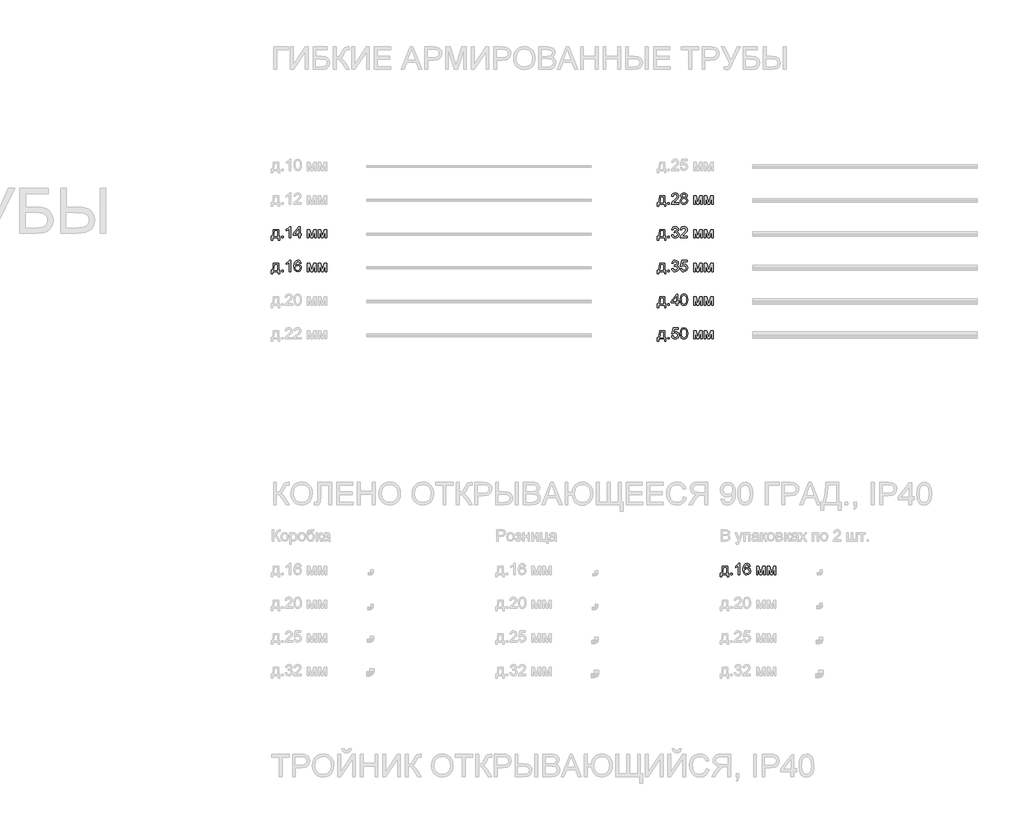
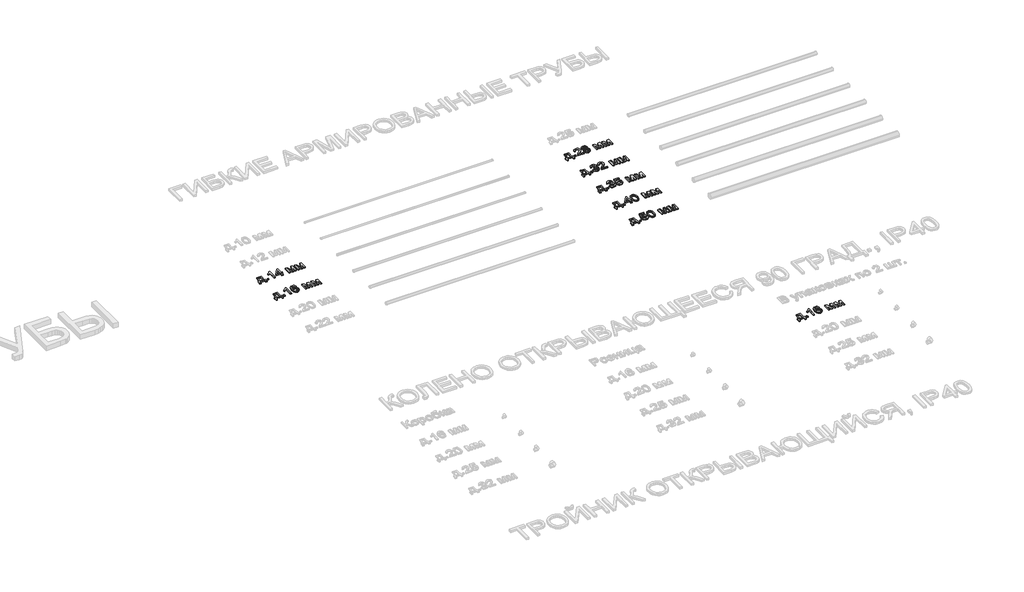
# One storey, part 82 of 98: 8 proxies.
"""IFC4 building model written with IfcOpenShell, lengths in millimetres."""

from ifc_helpers import new_model, si_unit, origin, origin_with_axes, place, context, project, spatial, polyline, outline, extrude, element, save

model = new_model("IFC4")

# Units and contexts
model_context = context("Model", 3, world=origin())
ifc_project = project(units=[si_unit("LENGTHUNIT", "METRE", prefix="MILLI")], contexts=[model_context])

# Site, building, storey
site = spatial("IfcSite", under=ifc_project)
building = spatial("IfcBuilding", under=site)
storey = spatial("IfcBuildingStorey", under=building, Name="Этаж 01", Elevation=0.0)

# Proxies
placement = place(None, origin())
element("IfcBuildingElementProxy", 1, Name="100", ObjectType="100", at=placement, inside=storey, context=model_context, shape_type="SweptSolid", body=[
    extrude(outline(polyline([(-26.9858135, -12385.678477), (20.1030819, -12385.678477), (20.1030819, -12446.894041), (29.520861, -12446.894041), (29.520861, -12479.8562677), (16.9638222, -12479.8562677), (16.9638222, -12459.4510797), (-34.8339627, -12459.4510797), (-34.8339627, -12479.8562677), (-47.3910015, -12479.8562677), (-47.3910015, -12446.894041), (-39.5428522, -12446.894041), (-29.8430303, -12422.9449231), (-26.9858135, -12385.678477)]), holes=[polyline([(-15.9984045, -12398.2355157), (-18.9414605, -12426.8444722), (-25.4161836, -12446.894041), (7.5460431, -12446.894041), (7.5460431, -12398.2355157), (-15.9984045, -12398.2355157)])]), origin_with_axes(), (0.0, 0.0, 1.0), 10.0),
    extrude(outline(polyline([(46.7867893, -12459.4510797), (46.7867893, -12446.894041), (59.3438281, -12446.894041), (59.3438281, -12459.4510797), (46.7867893, -12459.4510797)])), origin_with_axes(), (0.0, 0.0, 1.0), 10.0),
    extrude(outline(polyline([(126.8379114, -12459.4510797), (114.2808727, -12459.4510797), (114.2808727, -12381.1657912), (102.3860215, -12389.6393398), (89.1667951, -12395.9791728), (89.1667951, -12384.1088471), (107.5731576, -12372.3611487), (118.7445076, -12358.9947696), (126.8379114, -12358.9947696), (126.8379114, -12459.4510797)])), origin_with_axes(), (0.0, 0.0, 1.0), 10.0),
    extrude(outline(polyline([(197.4712545, -12459.4510797), (197.4712545, -12435.906632), (151.951989, -12435.906632), (151.951989, -12423.3495933), (200.6105142, -12360.5643994), (210.0282933, -12360.5643994), (210.0282933, -12423.3495933), (222.5853321, -12423.3495933), (222.5853321, -12435.906632), (210.0282933, -12435.906632), (210.0282933, -12459.4510797), (197.4712545, -12459.4510797)]), holes=[polyline([(197.4712545, -12423.3495933), (197.4712545, -12384.5503055), (167.4030328, -12423.3495933), (197.4712545, -12423.3495933)])]), origin_with_axes(), (0.0, 0.0, 1.0), 10.0),
    extrude(outline(polyline([(275.9527468, -12385.678477), (297.5596827, -12385.678477), (314.2124743, -12444.7357999), (332.1651157, -12385.678477), (352.8646093, -12385.678477), (352.8646093, -12459.4510797), (340.3075705, -12459.4510797), (340.3075705, -12400.0504002), (322.2568273, -12459.4510797), (305.7757139, -12459.4510797), (288.5097856, -12397.2054461), (288.5097856, -12459.4510797), (275.9527468, -12459.4510797), (275.9527468, -12385.678477)])), origin_with_axes(), (0.0, 0.0, 1.0), 10.0),
    extrude(outline(polyline([(371.7001674, -12385.678477), (393.3071033, -12385.678477), (409.9598949, -12444.7357999), (427.9125363, -12385.678477), (448.6120299, -12385.678477), (448.6120299, -12459.4510797), (436.0549911, -12459.4510797), (436.0549911, -12400.0504002), (418.0042479, -12459.4510797), (401.5231345, -12459.4510797), (384.2572062, -12397.2054461), (384.2572062, -12459.4510797), (371.7001674, -12459.4510797), (371.7001674, -12385.678477)])), origin_with_axes(), (0.0, 0.0, 1.0), 10.0),
])
element("IfcBuildingElementProxy", 2, Name="100", ObjectType="100", at=placement, inside=storey, context=model_context, shape_type="SweptSolid", body=[
    extrude(outline(polyline([(-26.9858135, -12685.678477), (20.1030819, -12685.678477), (20.1030819, -12746.894041), (29.520861, -12746.894041), (29.520861, -12779.8562677), (16.9638222, -12779.8562677), (16.9638222, -12759.4510797), (-34.8339627, -12759.4510797), (-34.8339627, -12779.8562677), (-47.3910015, -12779.8562677), (-47.3910015, -12746.894041), (-39.5428522, -12746.894041), (-29.8430303, -12722.9449231), (-26.9858135, -12685.678477)]), holes=[polyline([(-15.9984045, -12698.2355157), (-18.9414605, -12726.8444722), (-25.4161836, -12746.894041), (7.5460431, -12746.894041), (7.5460431, -12698.2355157), (-15.9984045, -12698.2355157)])]), origin_with_axes(), (0.0, 0.0, 1.0), 10.0),
    extrude(outline(polyline([(46.7867893, -12759.4510797), (46.7867893, -12746.894041), (59.3438281, -12746.894041), (59.3438281, -12759.4510797), (46.7867893, -12759.4510797)])), origin_with_axes(), (0.0, 0.0, 1.0), 10.0),
    extrude(outline(polyline([(126.8379114, -12759.4510797), (114.2808727, -12759.4510797), (114.2808727, -12681.1657912), (102.3860215, -12689.6393398), (89.1667951, -12695.9791728), (89.1667951, -12684.1088471), (107.5731576, -12672.3611487), (118.7445076, -12658.9947696), (126.8379114, -12658.9947696), (126.8379114, -12759.4510797)])), origin_with_axes(), (0.0, 0.0, 1.0), 10.0),
    extrude(outline(polyline([(221.0157022, -12685.678477), (208.4586634, -12687.2481068), (203.700723, -12676.7757327), (191.1191587, -12671.5518083), (179.7883933, -12674.5929662), (171.2167428, -12686.0095708), (167.6482874, -12708.3890588), (178.7215355, -12698.3704058), (192.4435339, -12695.096256), (204.0440795, -12697.3342048), (213.7806896, -12704.0480513), (220.3841715, -12714.3058275), (222.5853321, -12727.175566), (218.4405282, -12744.502808), (207.0361864, -12756.7655412), (190.5795985, -12761.0207096), (176.3333682, -12758.2002809), (164.9872743, -12749.7389951), (157.5652551, -12734.802986), (155.0912487, -12712.5583881), (157.8381009, -12687.5485438), (166.0786576, -12670.4481624), (177.3297153, -12661.8581178), (191.9039737, -12658.9947696), (202.9220394, -12660.7667345), (211.7450759, -12666.0826293), (217.9254935, -12674.5255211), (221.0157022, -12685.678477)]), holes=[polyline([(167.6482874, -12726.9793623), (170.5545552, -12737.8564066), (178.2800771, -12745.7536068), (189.5985798, -12748.4636708), (197.8851218, -12747.0595879), (204.3996988, -12742.847339), (208.6211447, -12736.2254631), (210.0282933, -12727.5924989), (208.6395388, -12719.305957), (204.4732752, -12712.9875837), (197.8483336, -12708.986867), (189.083545, -12707.6532948), (173.8900186, -12712.9875837), (169.2087202, -12719.1526728), (167.6482874, -12726.9793623)])]), origin_with_axes(), (0.0, 0.0, 1.0), 10.0),
    extrude(outline(polyline([(275.9527468, -12685.678477), (297.5596827, -12685.678477), (314.2124743, -12744.7357999), (332.1651157, -12685.678477), (352.8646093, -12685.678477), (352.8646093, -12759.4510797), (340.3075705, -12759.4510797), (340.3075705, -12700.0504002), (322.2568273, -12759.4510797), (305.7757139, -12759.4510797), (288.5097856, -12697.2054461), (288.5097856, -12759.4510797), (275.9527468, -12759.4510797), (275.9527468, -12685.678477)])), origin_with_axes(), (0.0, 0.0, 1.0), 10.0),
    extrude(outline(polyline([(371.7001674, -12685.678477), (393.3071033, -12685.678477), (409.9598949, -12744.7357999), (427.9125363, -12685.678477), (448.6120299, -12685.678477), (448.6120299, -12759.4510797), (436.0549911, -12759.4510797), (436.0549911, -12700.0504002), (418.0042479, -12759.4510797), (401.5231345, -12759.4510797), (384.2572062, -12697.2054461), (384.2572062, -12759.4510797), (371.7001674, -12759.4510797), (371.7001674, -12685.678477)])), origin_with_axes(), (0.0, 0.0, 1.0), 10.0),
])
element("IfcBuildingElementProxy", 3, Name="100", ObjectType="100", at=placement, inside=storey, context=model_context, shape_type="SweptSolid", body=[
    extrude(outline(polyline([(3413.0141865, -12085.678477), (3460.1030819, -12085.678477), (3460.1030819, -12146.894041), (3469.520861, -12146.894041), (3469.520861, -12179.8562677), (3456.9638222, -12179.8562677), (3456.9638222, -12159.4510797), (3405.1660373, -12159.4510797), (3405.1660373, -12179.8562677), (3392.6089985, -12179.8562677), (3392.6089985, -12146.894041), (3400.4571478, -12146.894041), (3410.1569697, -12122.9449231), (3413.0141865, -12085.678477)]), holes=[polyline([(3424.0015955, -12098.2355157), (3421.0585395, -12126.8444722), (3414.5838164, -12146.894041), (3447.5460431, -12146.894041), (3447.5460431, -12098.2355157), (3424.0015955, -12098.2355157)])]), origin_with_axes(), (0.0, 0.0, 1.0), 10.0),
    extrude(outline(polyline([(3486.7867893, -12159.4510797), (3486.7867893, -12146.894041), (3499.3438281, -12146.894041), (3499.3438281, -12159.4510797), (3486.7867893, -12159.4510797)])), origin_with_axes(), (0.0, 0.0, 1.0), 10.0),
    extrude(outline(polyline([(3584.1038398, -12146.894041), (3584.1038398, -12159.4510797), (3518.1793862, -12159.4510797), (3519.5282869, -12150.7935901), (3527.1557069, -12137.4639991), (3542.8765308, -12122.9081349), (3564.5570431, -12101.9879121), (3569.9771711, -12087.7631416), (3564.8636114, -12076.2484351), (3551.509495, -12071.5518083), (3537.5912928, -12076.1380705), (3532.3060548, -12088.8177367), (3519.7490161, -12087.2481068), (3522.7932396, -12075.1018696), (3529.3752616, -12066.2297821), (3539.1517256, -12060.8035227), (3551.7792751, -12058.9947696), (3564.4987951, -12061.0058578), (3574.256865, -12067.0391225), (3580.4648737, -12076.0522314), (3582.5342099, -12087.0028521), (3580.3023925, -12098.9099661), (3572.8834389, -12111.2217502), (3554.8940093, -12128.4263648), (3540.4485097, -12140.505157), (3534.7831269, -12146.894041), (3584.1038398, -12146.894041)])), origin_with_axes(), (0.0, 0.0, 1.0), 10.0),
    extrude(outline(polyline([(3614.9568764, -12104.1216276), (3603.5157464, -12096.3225294), (3599.8001382, -12084.1824235), (3601.8234892, -12074.3661056), (3607.8935421, -12066.2543076), (3617.3297153, -12060.8096541), (3629.451427, -12058.9947696), (3641.6467152, -12060.8525737), (3651.2055157, -12066.4259859), (3657.3859332, -12074.6665426), (3659.4460724, -12084.52578), (3655.7795151, -12096.3593176), (3644.6572162, -12104.1216276), (3658.0113326, -12113.9686024), (3662.5853321, -12130.2167238), (3660.3167264, -12142.2219396), (3653.5109095, -12152.1424908), (3643.0017472, -12158.8011549), (3629.6231053, -12161.0207096), (3616.2444634, -12158.7919578), (3605.7353011, -12152.1057026), (3598.9294842, -12142.0901152), (3596.6608785, -12129.8733673), (3601.418819, -12113.2451011), (3614.9568764, -12104.1216276)]), holes=[polyline([(3609.2179173, -12129.4319089), (3611.3148447, -12138.8864762), (3618.7337982, -12145.9620732), (3629.7212072, -12148.4636708), (3638.2683322, -12147.1484927), (3644.6817416, -12143.2029583), (3650.0282933, -12129.8243164), (3644.5100634, -12116.1881571), (3637.9495011, -12112.1414551), (3629.3042742, -12110.7925545), (3620.8767109, -12112.123061), (3614.5276808, -12116.1145807), (3609.2179173, -12129.4319089)]), polyline([(3612.357177, -12084.5503055), (3616.8085491, -12094.409543), (3629.7702581, -12098.2355157), (3642.4744497, -12094.4340684), (3646.8890336, -12085.1143912), (3642.3272969, -12075.4636202), (3629.6231053, -12071.5518083), (3616.8821255, -12075.3777811), (3612.357177, -12084.5503055)])]), origin_with_axes(), (0.0, 0.0, 1.0), 10.0),
    extrude(outline(polyline([(3715.9527468, -12085.678477), (3737.5596827, -12085.678477), (3754.2124743, -12144.7357999), (3772.1651157, -12085.678477), (3792.8646093, -12085.678477), (3792.8646093, -12159.4510797), (3780.3075705, -12159.4510797), (3780.3075705, -12100.0504002), (3762.2568273, -12159.4510797), (3745.7757139, -12159.4510797), (3728.5097856, -12097.2054461), (3728.5097856, -12159.4510797), (3715.9527468, -12159.4510797), (3715.9527468, -12085.678477)])), origin_with_axes(), (0.0, 0.0, 1.0), 10.0),
    extrude(outline(polyline([(3811.7001674, -12085.678477), (3833.3071033, -12085.678477), (3849.9598949, -12144.7357999), (3867.9125363, -12085.678477), (3888.6120299, -12085.678477), (3888.6120299, -12159.4510797), (3876.0549911, -12159.4510797), (3876.0549911, -12100.0504002), (3858.0042479, -12159.4510797), (3841.5231345, -12159.4510797), (3824.2572062, -12097.2054461), (3824.2572062, -12159.4510797), (3811.7001674, -12159.4510797), (3811.7001674, -12085.678477)])), origin_with_axes(), (0.0, 0.0, 1.0), 10.0),
])
element("IfcBuildingElementProxy", 4, Name="100", ObjectType="100", at=placement, inside=storey, context=model_context, shape_type="SweptSolid", body=[
    extrude(outline(polyline([(3413.0141865, -12385.678477), (3460.1030819, -12385.678477), (3460.1030819, -12446.894041), (3469.520861, -12446.894041), (3469.520861, -12479.8562677), (3456.9638222, -12479.8562677), (3456.9638222, -12459.4510797), (3405.1660373, -12459.4510797), (3405.1660373, -12479.8562677), (3392.6089985, -12479.8562677), (3392.6089985, -12446.894041), (3400.4571478, -12446.894041), (3410.1569697, -12422.9449231), (3413.0141865, -12385.678477)]), holes=[polyline([(3424.0015955, -12398.2355157), (3421.0585395, -12426.8444722), (3414.5838164, -12446.894041), (3447.5460431, -12446.894041), (3447.5460431, -12398.2355157), (3424.0015955, -12398.2355157)])]), origin_with_axes(), (0.0, 0.0, 1.0), 10.0),
    extrude(outline(polyline([(3486.7867893, -12459.4510797), (3486.7867893, -12446.894041), (3499.3438281, -12446.894041), (3499.3438281, -12459.4510797), (3486.7867893, -12459.4510797)])), origin_with_axes(), (0.0, 0.0, 1.0), 10.0),
    extrude(outline(polyline([(3519.7490161, -12432.7673723), (3532.3060548, -12431.1977425), (3539.2344991, -12444.4169689), (3552.196208, -12448.4636708), (3560.8046467, -12447.0718506), (3567.4510481, -12442.8963899), (3573.1164308, -12429.1130779), (3567.500099, -12416.1268434), (3553.2262776, -12410.9887582), (3544.4216352, -12412.3621843), (3545.8195868, -12399.8051456), (3547.830675, -12399.9522984), (3562.079971, -12396.3470548), (3566.8256487, -12391.7730553), (3568.4075413, -12385.261544), (3563.8212791, -12375.4390948), (3552.0000043, -12371.5518083), (3540.0315767, -12375.475883), (3533.8756847, -12387.2481068), (3521.3186459, -12385.678477), (3525.01586, -12374.4028938), (3531.5948163, -12365.9845275), (3540.5956625, -12360.7422091), (3551.5585459, -12358.9947696), (3566.7030214, -12362.4405976), (3577.2980228, -12371.8583767), (3580.9645801, -12384.52578), (3577.4819638, -12396.1018002), (3567.181268, -12404.4159332), (3580.8664782, -12412.9998465), (3585.6734696, -12429.3338071), (3583.2699739, -12441.5720148), (3576.0594868, -12451.7991342), (3565.1763111, -12458.7153157), (3551.7547496, -12461.0207096), (3539.6146438, -12459.0525409), (3529.7308809, -12453.1480349), (3522.8576189, -12444.1165319), (3519.7490161, -12432.7673723)])), origin_with_axes(), (0.0, 0.0, 1.0), 10.0),
    extrude(outline(polyline([(3661.0157022, -12446.894041), (3661.0157022, -12459.4510797), (3595.0912487, -12459.4510797), (3596.4401493, -12450.7935901), (3604.0675694, -12437.4639991), (3619.7883933, -12422.9081349), (3641.4689055, -12401.9879121), (3646.8890336, -12387.7631416), (3641.7754739, -12376.2484351), (3628.4213574, -12371.5518083), (3614.5031553, -12376.1380705), (3609.2179173, -12388.8177367), (3596.6608785, -12387.2481068), (3599.705102, -12375.1018696), (3606.2871241, -12366.2297821), (3616.0635881, -12360.8035227), (3628.6911376, -12358.9947696), (3641.4106576, -12361.0058578), (3651.1687275, -12367.0391225), (3657.3767361, -12376.0522314), (3659.4460724, -12387.0028521), (3657.2142549, -12398.9099661), (3649.7953014, -12411.2217502), (3631.8058718, -12428.4263648), (3617.3603721, -12440.505157), (3611.6949894, -12446.894041), (3661.0157022, -12446.894041)])), origin_with_axes(), (0.0, 0.0, 1.0), 10.0),
    extrude(outline(polyline([(3715.9527468, -12385.678477), (3737.5596827, -12385.678477), (3754.2124743, -12444.7357999), (3772.1651157, -12385.678477), (3792.8646093, -12385.678477), (3792.8646093, -12459.4510797), (3780.3075705, -12459.4510797), (3780.3075705, -12400.0504002), (3762.2568273, -12459.4510797), (3745.7757139, -12459.4510797), (3728.5097856, -12397.2054461), (3728.5097856, -12459.4510797), (3715.9527468, -12459.4510797), (3715.9527468, -12385.678477)])), origin_with_axes(), (0.0, 0.0, 1.0), 10.0),
    extrude(outline(polyline([(3811.7001674, -12385.678477), (3833.3071033, -12385.678477), (3849.9598949, -12444.7357999), (3867.9125363, -12385.678477), (3888.6120299, -12385.678477), (3888.6120299, -12459.4510797), (3876.0549911, -12459.4510797), (3876.0549911, -12400.0504002), (3858.0042479, -12459.4510797), (3841.5231345, -12459.4510797), (3824.2572062, -12397.2054461), (3824.2572062, -12459.4510797), (3811.7001674, -12459.4510797), (3811.7001674, -12385.678477)])), origin_with_axes(), (0.0, 0.0, 1.0), 10.0),
])
element("IfcBuildingElementProxy", 5, Name="100", ObjectType="100", at=placement, inside=storey, context=model_context, shape_type="SweptSolid", body=[
    extrude(outline(polyline([(3413.0141865, -12685.678477), (3460.1030819, -12685.678477), (3460.1030819, -12746.894041), (3469.520861, -12746.894041), (3469.520861, -12779.8562677), (3456.9638222, -12779.8562677), (3456.9638222, -12759.4510797), (3405.1660373, -12759.4510797), (3405.1660373, -12779.8562677), (3392.6089985, -12779.8562677), (3392.6089985, -12746.894041), (3400.4571478, -12746.894041), (3410.1569697, -12722.9449231), (3413.0141865, -12685.678477)]), holes=[polyline([(3424.0015955, -12698.2355157), (3421.0585395, -12726.8444722), (3414.5838164, -12746.894041), (3447.5460431, -12746.894041), (3447.5460431, -12698.2355157), (3424.0015955, -12698.2355157)])]), origin_with_axes(), (0.0, 0.0, 1.0), 10.0),
    extrude(outline(polyline([(3486.7867893, -12759.4510797), (3486.7867893, -12746.894041), (3499.3438281, -12746.894041), (3499.3438281, -12759.4510797), (3486.7867893, -12759.4510797)])), origin_with_axes(), (0.0, 0.0, 1.0), 10.0),
    extrude(outline(polyline([(3519.7490161, -12732.7673723), (3532.3060548, -12731.1977425), (3539.2344991, -12744.4169689), (3552.196208, -12748.4636708), (3560.8046467, -12747.0718506), (3567.4510481, -12742.8963899), (3573.1164308, -12729.1130779), (3567.500099, -12716.1268434), (3553.2262776, -12710.9887582), (3544.4216352, -12712.3621843), (3545.8195868, -12699.8051456), (3547.830675, -12699.9522984), (3562.079971, -12696.3470548), (3566.8256487, -12691.7730553), (3568.4075413, -12685.261544), (3563.8212791, -12675.4390948), (3552.0000043, -12671.5518083), (3540.0315767, -12675.475883), (3533.8756847, -12687.2481068), (3521.3186459, -12685.678477), (3525.01586, -12674.4028938), (3531.5948163, -12665.9845275), (3540.5956625, -12660.7422091), (3551.5585459, -12658.9947696), (3566.7030214, -12662.4405976), (3577.2980228, -12671.8583767), (3580.9645801, -12684.52578), (3577.4819638, -12696.1018002), (3567.181268, -12704.4159332), (3580.8664782, -12712.9998465), (3585.6734696, -12729.3338071), (3583.2699739, -12741.5720148), (3576.0594868, -12751.7991342), (3565.1763111, -12758.7153157), (3551.7547496, -12761.0207096), (3539.6146438, -12759.0525409), (3529.7308809, -12753.1480349), (3522.8576189, -12744.1165319), (3519.7490161, -12732.7673723)])), origin_with_axes(), (0.0, 0.0, 1.0), 10.0),
    extrude(outline(polyline([(3596.6608785, -12732.7673723), (3609.2179173, -12731.1977425), (3615.5454876, -12744.134926), (3628.6666121, -12748.4636708), (3637.6674583, -12746.9584203), (3644.4119615, -12742.4426688), (3648.6242103, -12735.4375825), (3650.0282933, -12726.4643275), (3644.7675808, -12711.552844), (3638.1610333, -12707.4509597), (3628.8628158, -12706.083665), (3617.8386187, -12708.2664315), (3610.7875471, -12713.9318142), (3598.2305084, -12712.3621843), (3609.2179173, -12660.5643994), (3657.8764425, -12660.5643994), (3657.8764425, -12673.1214382), (3619.3714604, -12673.1214382), (3614.0003832, -12700.7861642), (3622.9705725, -12695.3415107), (3632.3699575, -12693.5266262), (3644.1023275, -12695.7768377), (3653.8420033, -12702.5274723), (3660.3994999, -12712.8159055), (3662.5853321, -12725.6795126), (3660.6171634, -12738.2365513), (3654.7126574, -12748.9787056), (3643.4064174, -12758.0102086), (3628.6175612, -12761.0207096), (3616.2843173, -12759.0862634), (3606.4588023, -12753.2829249), (3599.7234961, -12744.2851445), (3596.6608785, -12732.7673723)])), origin_with_axes(), (0.0, 0.0, 1.0), 10.0),
    extrude(outline(polyline([(3715.9527468, -12685.678477), (3737.5596827, -12685.678477), (3754.2124743, -12744.7357999), (3772.1651157, -12685.678477), (3792.8646093, -12685.678477), (3792.8646093, -12759.4510797), (3780.3075705, -12759.4510797), (3780.3075705, -12700.0504002), (3762.2568273, -12759.4510797), (3745.7757139, -12759.4510797), (3728.5097856, -12697.2054461), (3728.5097856, -12759.4510797), (3715.9527468, -12759.4510797), (3715.9527468, -12685.678477)])), origin_with_axes(), (0.0, 0.0, 1.0), 10.0),
    extrude(outline(polyline([(3811.7001674, -12685.678477), (3833.3071033, -12685.678477), (3849.9598949, -12744.7357999), (3867.9125363, -12685.678477), (3888.6120299, -12685.678477), (3888.6120299, -12759.4510797), (3876.0549911, -12759.4510797), (3876.0549911, -12700.0504002), (3858.0042479, -12759.4510797), (3841.5231345, -12759.4510797), (3824.2572062, -12697.2054461), (3824.2572062, -12759.4510797), (3811.7001674, -12759.4510797), (3811.7001674, -12685.678477)])), origin_with_axes(), (0.0, 0.0, 1.0), 10.0),
])
element("IfcBuildingElementProxy", 6, Name="100", ObjectType="100", at=placement, inside=storey, context=model_context, shape_type="SweptSolid", body=[
    extrude(outline(polyline([(3413.0141865, -12985.678477), (3460.1030819, -12985.678477), (3460.1030819, -13046.894041), (3469.520861, -13046.894041), (3469.520861, -13079.8562677), (3456.9638222, -13079.8562677), (3456.9638222, -13059.4510797), (3405.1660373, -13059.4510797), (3405.1660373, -13079.8562677), (3392.6089985, -13079.8562677), (3392.6089985, -13046.894041), (3400.4571478, -13046.894041), (3410.1569697, -13022.9449231), (3413.0141865, -12985.678477)]), holes=[polyline([(3424.0015955, -12998.2355157), (3421.0585395, -13026.8444722), (3414.5838164, -13046.894041), (3447.5460431, -13046.894041), (3447.5460431, -12998.2355157), (3424.0015955, -12998.2355157)])]), origin_with_axes(), (0.0, 0.0, 1.0), 10.0),
    extrude(outline(polyline([(3486.7867893, -13059.4510797), (3486.7867893, -13046.894041), (3499.3438281, -13046.894041), (3499.3438281, -13059.4510797), (3486.7867893, -13059.4510797)])), origin_with_axes(), (0.0, 0.0, 1.0), 10.0),
    extrude(outline(polyline([(3560.5593921, -13059.4510797), (3560.5593921, -13035.906632), (3515.0401265, -13035.906632), (3515.0401265, -13023.3495933), (3563.6986518, -12960.5643994), (3573.1164308, -12960.5643994), (3573.1164308, -13023.3495933), (3585.6734696, -13023.3495933), (3585.6734696, -13035.906632), (3573.1164308, -13035.906632), (3573.1164308, -13059.4510797), (3560.5593921, -13059.4510797)]), holes=[polyline([(3560.5593921, -13023.3495933), (3560.5593921, -12984.5503055), (3530.4911703, -13023.3495933), (3560.5593921, -13023.3495933)])]), origin_with_axes(), (0.0, 0.0, 1.0), 10.0),
    extrude(outline(polyline([(3596.6608785, -13010.032265), (3600.3519612, -12981.129003), (3611.3148447, -12964.4639486), (3629.6231053, -12958.9947696), (3644.2893342, -12962.2321311), (3654.4183518, -12971.5640711), (3660.3044637, -12986.4265037), (3662.5853321, -13010.032265), (3658.9310376, -13038.8128998), (3648.0049423, -13055.5147424), (3639.7735827, -13059.6442178), (3629.6231053, -13061.0207096), (3616.5755572, -13058.6294766), (3606.6672688, -13051.4557777), (3599.1624761, -13034.4657609), (3596.6608785, -13010.032265)]), holes=[polyline([(3609.2179173, -13010.0077396), (3610.6894453, -13029.759937), (3615.1040292, -13041.19187), (3621.6768542, -13046.6457206), (3629.6231053, -13048.4636708), (3637.5693564, -13046.6395892), (3644.1421814, -13041.1673446), (3648.5567653, -13029.7292802), (3650.0282933, -13010.0077396), (3648.6058162, -12990.7000662), (3644.3383851, -12979.1792284), (3637.7778228, -12973.4586634), (3629.4759525, -12971.5518083), (3621.6155405, -12973.2318028), (3615.3002329, -12978.2717861), (3610.7384962, -12990.5099938), (3609.2179173, -13010.0077396)])]), origin_with_axes(), (0.0, 0.0, 1.0), 10.0),
    extrude(outline(polyline([(3715.9527468, -12985.678477), (3737.5596827, -12985.678477), (3754.2124743, -13044.7357999), (3772.1651157, -12985.678477), (3792.8646093, -12985.678477), (3792.8646093, -13059.4510797), (3780.3075705, -13059.4510797), (3780.3075705, -13000.0504002), (3762.2568273, -13059.4510797), (3745.7757139, -13059.4510797), (3728.5097856, -12997.2054461), (3728.5097856, -13059.4510797), (3715.9527468, -13059.4510797), (3715.9527468, -12985.678477)])), origin_with_axes(), (0.0, 0.0, 1.0), 10.0),
    extrude(outline(polyline([(3811.7001674, -12985.678477), (3833.3071033, -12985.678477), (3849.9598949, -13044.7357999), (3867.9125363, -12985.678477), (3888.6120299, -12985.678477), (3888.6120299, -13059.4510797), (3876.0549911, -13059.4510797), (3876.0549911, -13000.0504002), (3858.0042479, -13059.4510797), (3841.5231345, -13059.4510797), (3824.2572062, -12997.2054461), (3824.2572062, -13059.4510797), (3811.7001674, -13059.4510797), (3811.7001674, -12985.678477)])), origin_with_axes(), (0.0, 0.0, 1.0), 10.0),
])
element("IfcBuildingElementProxy", 7, Name="100", ObjectType="100", at=placement, inside=storey, context=model_context, shape_type="SweptSolid", body=[
    extrude(outline(polyline([(3413.0141865, -13285.678477), (3460.1030819, -13285.678477), (3460.1030819, -13346.894041), (3469.520861, -13346.894041), (3469.520861, -13379.8562677), (3456.9638222, -13379.8562677), (3456.9638222, -13359.4510797), (3405.1660373, -13359.4510797), (3405.1660373, -13379.8562677), (3392.6089985, -13379.8562677), (3392.6089985, -13346.894041), (3400.4571478, -13346.894041), (3410.1569697, -13322.9449231), (3413.0141865, -13285.678477)]), holes=[polyline([(3424.0015955, -13298.2355157), (3421.0585395, -13326.8444722), (3414.5838164, -13346.894041), (3447.5460431, -13346.894041), (3447.5460431, -13298.2355157), (3424.0015955, -13298.2355157)])]), origin_with_axes(), (0.0, 0.0, 1.0), 10.0),
    extrude(outline(polyline([(3486.7867893, -13359.4510797), (3486.7867893, -13346.894041), (3499.3438281, -13346.894041), (3499.3438281, -13359.4510797), (3486.7867893, -13359.4510797)])), origin_with_axes(), (0.0, 0.0, 1.0), 10.0),
    extrude(outline(polyline([(3519.7490161, -13332.7673723), (3532.3060548, -13331.1977425), (3538.6336251, -13344.134926), (3551.7547496, -13348.4636708), (3560.7555958, -13346.9584203), (3567.500099, -13342.4426688), (3571.7123479, -13335.4375825), (3573.1164308, -13326.4643275), (3567.8557183, -13311.552844), (3561.2491708, -13307.4509597), (3551.9509534, -13306.083665), (3540.9267563, -13308.2664315), (3533.8756847, -13313.9318142), (3521.3186459, -13312.3621843), (3532.3060548, -13260.5643994), (3580.9645801, -13260.5643994), (3580.9645801, -13273.1214382), (3542.4595979, -13273.1214382), (3537.0885208, -13300.7861642), (3546.0587101, -13295.3415107), (3555.4580951, -13293.5266262), (3567.190465, -13295.7768377), (3576.9301408, -13302.5274723), (3583.4876374, -13312.8159055), (3585.6734696, -13325.6795126), (3583.7053009, -13338.2365513), (3577.8007949, -13348.9787056), (3566.4945549, -13358.0102086), (3551.7056987, -13361.0207096), (3539.3724548, -13359.0862634), (3529.5469399, -13353.2829249), (3522.8116337, -13344.2851445), (3519.7490161, -13332.7673723)])), origin_with_axes(), (0.0, 0.0, 1.0), 10.0),
    extrude(outline(polyline([(3596.6608785, -13310.032265), (3600.3519612, -13281.129003), (3611.3148447, -13264.4639486), (3629.6231053, -13258.9947696), (3644.2893342, -13262.2321311), (3654.4183518, -13271.5640711), (3660.3044637, -13286.4265037), (3662.5853321, -13310.032265), (3658.9310376, -13338.8128998), (3648.0049423, -13355.5147424), (3639.7735827, -13359.6442178), (3629.6231053, -13361.0207096), (3616.5755572, -13358.6294766), (3606.6672688, -13351.4557777), (3599.1624761, -13334.4657609), (3596.6608785, -13310.032265)]), holes=[polyline([(3609.2179173, -13310.0077396), (3610.6894453, -13329.759937), (3615.1040292, -13341.19187), (3621.6768542, -13346.6457206), (3629.6231053, -13348.4636708), (3637.5693564, -13346.6395892), (3644.1421814, -13341.1673446), (3648.5567653, -13329.7292802), (3650.0282933, -13310.0077396), (3648.6058162, -13290.7000662), (3644.3383851, -13279.1792284), (3637.7778228, -13273.4586634), (3629.4759525, -13271.5518083), (3621.6155405, -13273.2318028), (3615.3002329, -13278.2717861), (3610.7384962, -13290.5099938), (3609.2179173, -13310.0077396)])]), origin_with_axes(), (0.0, 0.0, 1.0), 10.0),
    extrude(outline(polyline([(3715.9527468, -13285.678477), (3737.5596827, -13285.678477), (3754.2124743, -13344.7357999), (3772.1651157, -13285.678477), (3792.8646093, -13285.678477), (3792.8646093, -13359.4510797), (3780.3075705, -13359.4510797), (3780.3075705, -13300.0504002), (3762.2568273, -13359.4510797), (3745.7757139, -13359.4510797), (3728.5097856, -13297.2054461), (3728.5097856, -13359.4510797), (3715.9527468, -13359.4510797), (3715.9527468, -13285.678477)])), origin_with_axes(), (0.0, 0.0, 1.0), 10.0),
    extrude(outline(polyline([(3811.7001674, -13285.678477), (3833.3071033, -13285.678477), (3849.9598949, -13344.7357999), (3867.9125363, -13285.678477), (3888.6120299, -13285.678477), (3888.6120299, -13359.4510797), (3876.0549911, -13359.4510797), (3876.0549911, -13300.0504002), (3858.0042479, -13359.4510797), (3841.5231345, -13359.4510797), (3824.2572062, -13297.2054461), (3824.2572062, -13359.4510797), (3811.7001674, -13359.4510797), (3811.7001674, -13285.678477)])), origin_with_axes(), (0.0, 0.0, 1.0), 10.0),
])
element("IfcBuildingElementProxy", 8, Name="100", ObjectType="100", at=placement, inside=storey, context=model_context, shape_type="SweptSolid", body=[
    extrude(outline(polyline([(3973.0141865, -15385.7395637), (4020.1030819, -15385.7395637), (4020.1030819, -15446.9551277), (4029.520861, -15446.9551277), (4029.520861, -15479.9173545), (4016.9638222, -15479.9173545), (4016.9638222, -15459.5121665), (3965.1660373, -15459.5121665), (3965.1660373, -15479.9173545), (3952.6089985, -15479.9173545), (3952.6089985, -15446.9551277), (3960.4571478, -15446.9551277), (3970.1569697, -15423.0060098), (3973.0141865, -15385.7395637)]), holes=[polyline([(3984.0015955, -15398.2966025), (3981.0585395, -15426.905559), (3974.5838164, -15446.9551277), (4007.5460431, -15446.9551277), (4007.5460431, -15398.2966025), (3984.0015955, -15398.2966025)])]), origin_with_axes(), (0.0, 0.0, 1.0), 10.0),
    extrude(outline(polyline([(4046.7867893, -15459.5121665), (4046.7867893, -15446.9551277), (4059.3438281, -15446.9551277), (4059.3438281, -15459.5121665), (4046.7867893, -15459.5121665)])), origin_with_axes(), (0.0, 0.0, 1.0), 10.0),
    extrude(outline(polyline([(4126.8379114, -15459.5121665), (4114.2808727, -15459.5121665), (4114.2808727, -15381.2268779), (4102.3860215, -15389.7004265), (4089.1667951, -15396.0402596), (4089.1667951, -15384.1699338), (4107.5731576, -15372.4222355), (4118.7445076, -15359.0558563), (4126.8379114, -15359.0558563), (4126.8379114, -15459.5121665)])), origin_with_axes(), (0.0, 0.0, 1.0), 10.0),
    extrude(outline(polyline([(4221.0157022, -15385.7395637), (4208.4586634, -15387.3091935), (4203.700723, -15376.8368194), (4191.1191587, -15371.6128951), (4179.7883933, -15374.6540529), (4171.2167428, -15386.0706575), (4167.6482874, -15408.4501455), (4178.7215355, -15398.4314925), (4192.4435339, -15395.1573428), (4204.0440795, -15397.3952916), (4213.7806896, -15404.109138), (4220.3841715, -15414.3669143), (4222.5853321, -15427.2366527), (4218.4405282, -15444.5638947), (4207.0361864, -15456.8266279), (4190.5795985, -15461.0817963), (4176.3333682, -15458.2613677), (4164.9872743, -15449.8000818), (4157.5652551, -15434.8640728), (4155.0912487, -15412.6194748), (4157.8381009, -15387.6096305), (4166.0786576, -15370.5092491), (4177.3297153, -15361.9192045), (4191.9039737, -15359.0558563), (4202.9220394, -15360.8278213), (4211.7450759, -15366.1437161), (4217.9254935, -15374.5866079), (4221.0157022, -15385.7395637)]), holes=[polyline([(4167.6482874, -15427.040449), (4170.5545552, -15437.9174933), (4178.2800771, -15445.8146935), (4189.5985798, -15448.5247575), (4197.8851218, -15447.1206746), (4204.3996988, -15442.9084257), (4208.6211447, -15436.2865498), (4210.0282933, -15427.6535857), (4208.6395388, -15419.3670437), (4204.4732752, -15413.0486705), (4197.8483336, -15409.0479538), (4189.083545, -15407.7143815), (4173.8900186, -15413.0486705), (4169.2087202, -15419.2137596), (4167.6482874, -15427.040449)])]), origin_with_axes(), (0.0, 0.0, 1.0), 10.0),
    extrude(outline(polyline([(4275.9527468, -15385.7395637), (4297.5596827, -15385.7395637), (4314.2124743, -15444.7968867), (4332.1651157, -15385.7395637), (4352.8646093, -15385.7395637), (4352.8646093, -15459.5121665), (4340.3075705, -15459.5121665), (4340.3075705, -15400.111487), (4322.2568273, -15459.5121665), (4305.7757139, -15459.5121665), (4288.5097856, -15397.2665329), (4288.5097856, -15459.5121665), (4275.9527468, -15459.5121665), (4275.9527468, -15385.7395637)])), origin_with_axes(), (0.0, 0.0, 1.0), 10.0),
    extrude(outline(polyline([(4371.7001674, -15385.7395637), (4393.3071033, -15385.7395637), (4409.9598949, -15444.7968867), (4427.9125363, -15385.7395637), (4448.6120299, -15385.7395637), (4448.6120299, -15459.5121665), (4436.0549911, -15459.5121665), (4436.0549911, -15400.111487), (4418.0042479, -15459.5121665), (4401.5231345, -15459.5121665), (4384.2572062, -15397.2665329), (4384.2572062, -15459.5121665), (4371.7001674, -15459.5121665), (4371.7001674, -15385.7395637)])), origin_with_axes(), (0.0, 0.0, 1.0), 10.0),
])

save(model, "model.ifc")
